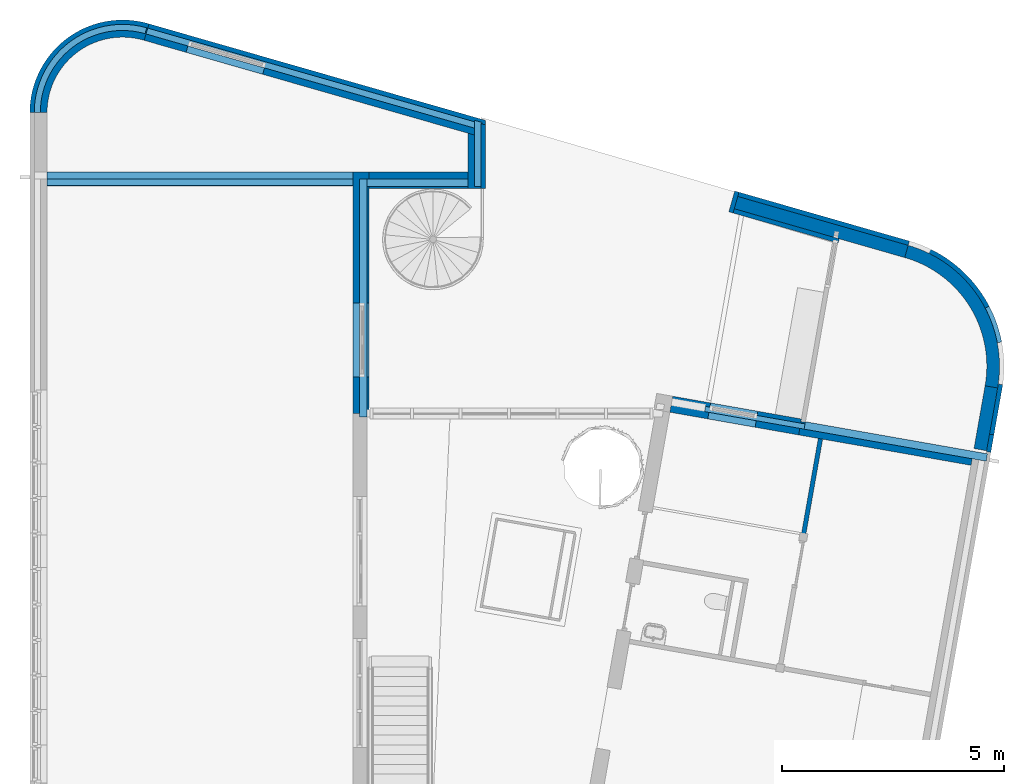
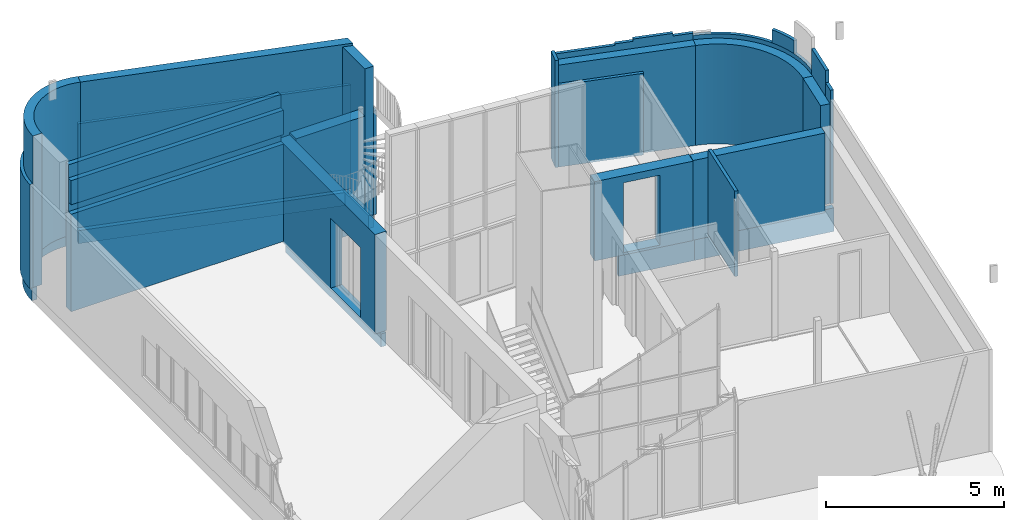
# One storey, part 12 of 21: 31 walls, 5 openings.
"""IFC2X3 building model written with IfcOpenShell, lengths in millimetres."""

from ifc_helpers import new_model, entity, si_unit, converted_unit, derived_unit, direction, frame, frame_2d, origin, place, context, subcontext, project, spatial, polyline, circle_curve, parameter, trimmed, segment, composite_curve, rectangle, outline, extrude, clip, bounded_halfspace, material, layer, layer_set, layer_usage, type_object, element, save


model = new_model("IFC2X3")

# Units and contexts
model_context = context("Model", 3, precision=0.01, world=origin(), true_north=direction((6.12303176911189e-17, 1.0)))
body_context = subcontext(model_context, "Body", "Model", "MODEL_VIEW")
ifc_project = project(units=[si_unit("LENGTHUNIT", "METRE", prefix="MILLI"), si_unit("AREAUNIT", "SQUARE_METRE"), si_unit("VOLUMEUNIT", "CUBIC_METRE"), converted_unit("PLANEANGLEUNIT", "DEGREE", entity("IfcRatioMeasure", 0.0174532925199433), si_unit("PLANEANGLEUNIT", "RADIAN"), dimensions=[0, 0, 0, 0, 0, 0, 0]), si_unit("MASSUNIT", "GRAM", prefix="KILO"), derived_unit("MASSDENSITYUNIT", [(si_unit("MASSUNIT", "GRAM", prefix="KILO"), 1), (si_unit("LENGTHUNIT", "METRE"), -3)]), si_unit("TIMEUNIT", "SECOND"), si_unit("FREQUENCYUNIT", "HERTZ"), si_unit("THERMODYNAMICTEMPERATUREUNIT", "DEGREE_CELSIUS"), derived_unit("THERMALTRANSMITTANCEUNIT", [(si_unit("MASSUNIT", "GRAM", prefix="KILO"), 1), (si_unit("THERMODYNAMICTEMPERATUREUNIT", "KELVIN"), -1), (si_unit("TIMEUNIT", "SECOND"), -3)]), derived_unit("VOLUMETRICFLOWRATEUNIT", [(si_unit("LENGTHUNIT", "METRE"), 3), (si_unit("TIMEUNIT", "SECOND"), -1)]), si_unit("ELECTRICCURRENTUNIT", "AMPERE"), si_unit("ELECTRICVOLTAGEUNIT", "VOLT"), si_unit("POWERUNIT", "WATT"), si_unit("FORCEUNIT", "NEWTON", prefix="KILO"), si_unit("ILLUMINANCEUNIT", "LUX"), si_unit("LUMINOUSFLUXUNIT", "LUMEN"), si_unit("LUMINOUSINTENSITYUNIT", "CANDELA"), derived_unit("USERDEFINED", [(si_unit("MASSUNIT", "GRAM", prefix="KILO"), -1), (si_unit("LENGTHUNIT", "METRE"), -2), (si_unit("TIMEUNIT", "SECOND"), 3), (si_unit("LUMINOUSFLUXUNIT", "LUMEN"), 1)]), derived_unit("LINEARVELOCITYUNIT", [(si_unit("LENGTHUNIT", "METRE"), 1), (si_unit("TIMEUNIT", "SECOND"), -1)]), si_unit("PRESSUREUNIT", "PASCAL"), derived_unit("USERDEFINED", [(si_unit("LENGTHUNIT", "METRE"), -2), (si_unit("MASSUNIT", "GRAM", prefix="KILO"), 1), (si_unit("TIMEUNIT", "SECOND"), -2)])], contexts=[model_context])

# Site, building, storey
site_placement = place(None, origin())
site = spatial("IfcSite", under=ifc_project, at=site_placement, Name="<Kadaster Gemeente>;<Kadaster nummer>;<Kadaster sectie>", CompositionType="ELEMENT")
building_placement = place(site_placement, origin())
building = spatial("IfcBuilding", under=site, at=building_placement, Name="JRCZ Middelburg", CompositionType="ELEMENT")
storey_placement = place(building_placement, origin())
storey = spatial("IfcBuildingStorey", under=building, at=storey_placement, Name="00 begane grond", CompositionType="ELEMENT", Elevation=0.0)

# Walls
ifc_material_1 = material(Name="RBM_a_metalstudwand")
ifc_layer_1 = layer(ifc_material_1, 100.0)
ifc_layer_set_1 = layer_set([ifc_layer_1], Name="Basic Wall:WA_22_metalstud_binnenwand_100mm")
ifc_layer_usage_1 = layer_usage(ifc_layer_set_1, "AXIS2", "NEGATIVE", 50.0)
wall_type_1 = type_object("IfcWallType", Name="Basic Wall:WA_22_metalstud_binnenwand_100mm", PredefinedType="STANDARD", material=ifc_layer_set_1)
wall_1_placement = place(storey_placement, frame((27624.7105197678, 18683.7274090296, 0.0), z_axis=(0.0, 0.0, 1.0), x_axis=(-0.173648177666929, -0.984807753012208, 0.0)))
element("IfcWallStandardCase", 1, at=wall_1_placement, inside=storey, type_object=wall_type_1, material=ifc_layer_usage_1, Name="Basic Wall:WA_22_metalstud_binnenwand_100mm", ObjectType="Basic Wall:WA_22_metalstud_binnenwand_100mm", context=body_context, shape_type="Clipping", body=[
    clip(extrude(rectangle(XDim=2175.00000000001, YDim=99.9999999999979, at=frame_2d((1237.50000000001, -8.98836560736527e-13), x_axis=(-1.0, 0.0))), origin(), (0.0, 0.0, 1.0), 2936.0), bounded_halfspace(frame((0.0, -50.0, 2936.0), z_axis=(0.0, 0.0, -1.0), x_axis=(1.0, 0.0, 0.0)), True, frame((0.0, -50.0, 2936.0)), polyline([(0.0, 0.0), (2325.0, 0.0), (2325.0, 100.0), (0.0, 100.0), (0.0, 0.0)]))),
])
ifc_material_2 = material(Name="RBM_i4_multiplex_beplating")
ifc_layer_2 = layer(ifc_material_2, 18.0)
ifc_material_3 = material(Name="isolatie_steenwol_hsb_270")
ifc_layer_3 = layer(ifc_material_3, 270.0)
ifc_layer_4 = layer(ifc_material_2, 18.0)
ifc_layer_set_2 = layer_set([ifc_layer_2, ifc_layer_3, ifc_layer_4], Name="Basic Wall:22_WA_hsb_binnenwand_306mm")
ifc_layer_usage_2 = layer_usage(ifc_layer_set_2, "AXIS2", "POSITIVE", -153.0)
wall_type_2 = type_object("IfcWallType", Name="Basic Wall:22_WA_hsb_binnenwand_306mm", PredefinedType="STANDARD", material=ifc_layer_set_2)
wall_2_placement = place(storey_placement, frame((17050.0, 24397.0, 0.0), z_axis=(0.0, 0.0, 1.0), x_axis=(-1.0, 0.0, 0.0)))
element("IfcWallStandardCase", 2, at=wall_2_placement, inside=storey, type_object=wall_type_2, material=ifc_layer_usage_2, Name="Basic Wall:22_WA_hsb_binnenwand_306mm", ObjectType="Basic Wall:22_WA_hsb_binnenwand_306mm", context=body_context, shape_type="SweptSolid", body=[
    extrude(rectangle(XDim=6900.0, YDim=306.0, at=frame_2d((3450.0, -4.54747350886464e-13), x_axis=(-1.0, 0.0))), origin(), (0.0, 0.0, 1.0), 3345.0),
])
ifc_layer_usage_3 = layer_usage(ifc_layer_set_2, "AXIS2", "NEGATIVE", 153.0)
wall_3_placement = place(storey_placement, frame((27132.8275877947, 18773.5059211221, -70.0), z_axis=(0.0, 0.0, 1.0), x_axis=(0.984807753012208, -0.173648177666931, 0.0)))
element("IfcWallStandardCase", 3, at=wall_3_placement, inside=storey, type_object=wall_type_2, material=ifc_layer_usage_3, Name="Basic Wall:22_WA_hsb_binnenwand_306mm", ObjectType="Basic Wall:22_WA_hsb_binnenwand_306mm", context=body_context, shape_type="SweptSolid", body=[
    extrude(rectangle(XDim=3950.00000000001, YDim=306.0, at=frame_2d((1975.0, -1.02318153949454e-12), x_axis=(-1.0, 0.0))), origin(), (0.0, 0.0, 1.0), 2735.0),
])

# Wall, opening
ifc_layer_5 = layer(ifc_material_3, 270.0)
ifc_layer_6 = layer(ifc_material_2, 18.0)
ifc_layer_set_3 = layer_set([ifc_layer_5, ifc_layer_6], Name="Basic Wall:RBM_21_WA_hsb_288mm")
ifc_layer_usage_4 = layer_usage(ifc_layer_set_3, "AXIS2", "NEGATIVE", 144.0)
wall_type_3 = type_object("IfcWallType", Name="Basic Wall:RBM_21_WA_hsb_288mm", PredefinedType="STANDARD", material=ifc_layer_set_3)
wall_4_placement = place(storey_placement, frame((12380.8470637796, 27663.2188626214, -70.0), z_axis=(0.0, 0.0, 1.0), x_axis=(0.961261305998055, -0.275638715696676, 0.0)))
wall_4 = element("IfcWallStandardCase", 4, at=wall_4_placement, inside=storey, type_object=wall_type_3, material=ifc_layer_usage_4, Name="Basic Wall:RBM_21_WA_hsb_288mm", ObjectType="Basic Wall:RBM_21_WA_hsb_288mm", context=body_context, shape_type="SweptSolid", body=[
    extrude(outline(polyline([(7902.61474660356, -144.0), (7820.03163457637, 144.0), (1.57831610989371, 144.0), (0.0, -144.0), (7603.00838753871, -144.0), (7902.61474660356, -144.0)])), origin(), (0.0, 0.0, 1.0), 5200.0),
])
opening_1_placement = place(wall_4_placement, origin())
element("IfcOpeningElement", 5, at=opening_1_placement, cuts=wall_4, Name="Basic Wall:RBM_21_WA_hsb_288mm", ObjectType="Opening", context=body_context, shape_type="SweptSolid", body=[
    extrude(rectangle(XDim=2400.0, YDim=1799.9999999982, at=frame_2d((0.0, 5.11590769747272e-13), x_axis=(1.0, 0.0))), frame((1882.35779775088, -296.400000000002, 1270.0), z_axis=(0.0, 1.0, 0.0), x_axis=(0.0, 0.0, 1.0)), (0.0, 0.0, 1.0), 592.799999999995),
])

# Walls
ifc_layer_usage_5 = layer_usage(ifc_layer_set_3, "AXIS2", "NEGATIVE", 144.0)
wall_5_placement = place(storey_placement, frame((19793.6328608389, 25429.1137671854, -70.0), z_axis=(0.0, 0.0, 1.0), x_axis=(0.0, -1.0, 0.0)))
element("IfcWallStandardCase", 6, at=wall_5_placement, inside=storey, type_object=wall_type_3, material=ifc_layer_usage_5, Name="Basic Wall:RBM_21_WA_hsb_288mm", ObjectType="Basic Wall:RBM_21_WA_hsb_288mm", context=body_context, shape_type="SweptSolid", body=[
    extrude(outline(polyline([(1245.11376718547, -144.0), (1245.11376718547, 144.0), (82.5831120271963, 144.0), (0.0, -144.0), (879.11376718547, -144.0), (1245.11376718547, -144.0)])), origin(), (0.0, 0.0, 1.0), 5120.0),
])
ifc_layer_usage_6 = layer_usage(ifc_layer_set_3, "AXIS2", "POSITIVE", -144.0)
wall_6_placement = place(storey_placement, frame((10005.99966665, 25897.124690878, -70.0)))
element("IfcWallStandardCase", 7, at=wall_6_placement, inside=storey, type_object=wall_type_3, material=ifc_layer_usage_6, Name="Basic Wall:RBM_21_WA_hsb_288mm", ObjectType="Basic Wall:RBM_21_WA_hsb_288mm", context=body_context, shape_type="SweptSolid", body=[
    extrude(outline(composite_curve([segment(trimmed(circle_curve(frame_2d((1847.07846521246, -3.97438723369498), x_axis=(1.0, 0.0)), 1991.08274108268), [parameter(73.395528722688)], [parameter(179.876715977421)], True, "PARAMETER"), True, "CONTINUOUS"), segment(polyline([(-143.999666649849, 0.309846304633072), (144.00033335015, -0.0120967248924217)]), True, "CONTINUOUS"), segment(trimmed(circle_curve(frame_2d((1847.07846521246, -3.97438723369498), x_axis=(1.0, 0.0)), 1703.08274108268), [parameter(73.3464205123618)], [parameter(179.866698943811)], True, "PARAMETER"), False, "CONTINUOUS"), segment(polyline([(2335.15542206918, 1627.67254367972), (2416.05654639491, 1904.08075478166)]), True, "CONTINUOUS")], self_intersect=False)), origin(), (0.0, 0.0, 1.0), 5200.0),
])
ifc_material_4 = material(Name="geisoleerde cementvezelplaat")
ifc_layer_7 = layer(ifc_material_4, 20.0)
ifc_material_5 = material(Name="RBM_n7_isolatie_resol")
ifc_layer_8 = layer(ifc_material_5, 150.0)
ifc_layer_set_4 = layer_set([ifc_layer_7, ifc_layer_8], Name="Basic Wall:RBM_21_WA_170mm_geïsoleerde_kantplank")
ifc_layer_usage_7 = layer_usage(ifc_layer_set_4, "AXIS2", "NEGATIVE", 85.0)
wall_type_4 = type_object("IfcWallType", Name="Basic Wall:RBM_21_WA_170mm_geïsoleerde_kantplank", PredefinedType="STANDARD", material=ifc_layer_set_4)
wall_7_placement = place(storey_placement, frame((12383.6373887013, 27757.3648549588, -520.0), z_axis=(0.0, 0.0, 1.0), x_axis=(0.961261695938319, -0.275637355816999, 0.0)))
element("IfcWallStandardCase", 8, at=wall_7_placement, inside=storey, type_object=wall_type_4, material=ifc_layer_usage_7, Name="Basic Wall:RBM_21_WA_170mm_geïsoleerde_kantplank", ObjectType="Basic Wall:RBM_21_WA_170mm_geïsoleerde_kantplank", context=body_context, shape_type="SweptSolid", body=[
    extrude(outline(polyline([(7732.98746719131, -85.0), (7684.24075161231, 85.0), (0.0, 85.0), (0.0, -85.0), (7732.98746719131, -85.0)])), origin(), (0.0, 0.0, 1.0), 450.0),
])
ifc_layer_usage_8 = layer_usage(ifc_layer_set_4, "AXIS2", "NEGATIVE", 85.0)
wall_8_placement = place(storey_placement, frame((19878.6328608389, 25721.0082968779, -520.0), z_axis=(0.0, 0.0, 1.0), x_axis=(0.0, -1.0, 0.0)))
element("IfcWallStandardCase", 9, at=wall_8_placement, inside=storey, type_object=wall_type_4, material=ifc_layer_usage_8, Name="Basic Wall:RBM_21_WA_170mm_geïsoleerde_kantplank", ObjectType="Basic Wall:RBM_21_WA_170mm_geïsoleerde_kantplank", context=body_context, shape_type="SweptSolid", body=[
    extrude(outline(polyline([(1494.00829687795, -85.0), (1494.00829687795, 85.0), (48.746715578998, 85.0), (0.0, -85.0), (176.850904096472, -85.0), (1324.00829687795, -85.0), (1494.00829687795, -85.0)])), origin(), (0.0, 0.0, 1.0), 450.0),
])
ifc_layer_usage_9 = layer_usage(ifc_layer_set_4, "AXIS2", "NEGATIVE", 85.0)
wall_9_placement = place(storey_placement, frame((27244.9769050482, 18836.9959527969, -890.0), z_axis=(0.0, 0.0, 1.0), x_axis=(0.984807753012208, -0.173648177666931, 0.0)))
element("IfcWallStandardCase", 10, at=wall_9_placement, inside=storey, type_object=wall_type_4, material=ifc_layer_usage_9, Name="Basic Wall:RBM_21_WA_170mm_geïsoleerde_kantplank", ObjectType="Basic Wall:RBM_21_WA_170mm_geïsoleerde_kantplank", context=body_context, shape_type="SweptSolid", body=[
    extrude(rectangle(XDim=4170.57941117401, YDim=170.000000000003, at=frame_2d((2085.289705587, 8.31335000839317e-13), x_axis=(-1.0, 0.0))), origin(), (0.0, 0.0, 1.0), 810.000000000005),
])
ifc_layer_usage_10 = layer_usage(ifc_layer_set_4, "AXIS2", "NEGATIVE", 85.0)
wall_10_placement = place(storey_placement, frame((17285.0, 24397.0, -520.0), z_axis=(0.0, 0.0, 1.0), x_axis=(0.0, -1.0, 0.0)))
element("IfcWallStandardCase", 11, at=wall_10_placement, inside=storey, type_object=wall_type_4, material=ifc_layer_usage_10, Name="Basic Wall:RBM_21_WA_170mm_geïsoleerde_kantplank", ObjectType="Basic Wall:RBM_21_WA_170mm_geïsoleerde_kantplank", context=body_context, shape_type="SweptSolid", body=[
    extrude(rectangle(XDim=5369.37661213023, YDim=170.0, at=frame_2d((2684.68830606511, -2.48689957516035e-13), x_axis=(-1.0, 0.0))), origin(), (0.0, 0.0, 1.0), 450.0),
])
ifc_layer_usage_11 = layer_usage(ifc_layer_set_4, "AXIS2", "POSITIVE", -85.0)
wall_11_placement = place(storey_placement, frame((17370.0, 24312.0, -520.0)))
element("IfcWallStandardCase", 12, at=wall_11_placement, inside=storey, type_object=wall_type_4, material=ifc_layer_usage_11, Name="Basic Wall:RBM_21_WA_170mm_geïsoleerde_kantplank", ObjectType="Basic Wall:RBM_21_WA_170mm_geïsoleerde_kantplank", context=body_context, shape_type="SweptSolid", body=[
    extrude(rectangle(XDim=2423.63286083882, YDim=169.999999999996, at=frame_2d((1211.81643041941, 2.8421709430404e-13), x_axis=(-1.0, 0.0))), origin(), (0.0, 0.0, 1.0), 450.0),
])
ifc_layer_usage_12 = layer_usage(ifc_layer_set_4, "AXIS2", "POSITIVE", -85.0)
wall_12_placement = place(storey_placement, frame((9915.0, 25897.1125941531, -520.0)))
element("IfcWallStandardCase", 13, at=wall_12_placement, inside=storey, type_object=wall_type_4, material=ifc_layer_usage_12, Name="Basic Wall:RBM_21_WA_170mm_geïsoleerde_kantplank", ObjectType="Basic Wall:RBM_21_WA_170mm_geïsoleerde_kantplank", context=body_context, shape_type="SweptSolid", body=[
    extrude(outline(composite_curve([segment(trimmed(circle_curve(frame_2d((1935.21863656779, 0.0), x_axis=(1.0, 0.0)), 2020.21863656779), [parameter(74.0)], [parameter(180.0)], True, "PARAMETER"), True, "CONTINUOUS"), segment(polyline([(-85.0, 0.0), (85.0, 0.0)]), True, "CONTINUOUS"), segment(trimmed(circle_curve(frame_2d((1935.21863656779, 0.0), x_axis=(1.0, 0.0)), 1850.21863656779), [parameter(74.0)], [parameter(180.0)], True, "PARAMETER"), False, "CONTINUOUS"), segment(polyline([(2445.20800923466, 1778.54430444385), (2492.06635972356, 1941.95879275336)]), True, "CONTINUOUS")], self_intersect=False)), origin(), (0.0, 0.0, 1.0), 450.0),
])

# Wall, opening
ifc_material_6 = material(Name="steenachtig_ntb_plaat_antraciet")
ifc_layer_9 = layer(ifc_material_6, 8.0)
ifc_material_7 = material(Name="ISR_Luchtspouw")
ifc_layer_10 = layer(ifc_material_7, 35.0)
ifc_layer_11 = layer(ifc_material_7, 35.0)
ifc_layer_12 = layer(ifc_material_3, 270.0)
ifc_layer_13 = layer(ifc_material_2, 18.0)
ifc_layer_set_5 = layer_set([ifc_layer_9, ifc_layer_10, ifc_layer_11, ifc_layer_12, ifc_layer_13], Name="Basic Wall:RBM_21_WA_hsb_ rockpanel_366mm")
ifc_layer_usage_13 = layer_usage(ifc_layer_set_5, "AXIS2", "NEGATIVE", 183.0)
wall_type_5 = type_object("IfcWallType", Name="Basic Wall:RBM_21_WA_hsb_ rockpanel_366mm", PredefinedType="STANDARD", material=ifc_layer_set_5)
wall_13_placement = place(storey_placement, frame((24232.8541617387, 19315.31227783, -80.0), z_axis=(0.0, 0.0, 1.0), x_axis=(0.984807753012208, -0.173648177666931, 0.0)))
wall_13 = element("IfcWallStandardCase", 14, at=wall_13_placement, inside=storey, type_object=wall_type_5, material=ifc_layer_usage_13, Name="Basic Wall:RBM_21_WA_hsb_ rockpanel_366mm", ObjectType="Basic Wall:RBM_21_WA_hsb_ rockpanel_366mm", context=body_context, shape_type="SweptSolid", body=[
    extrude(rectangle(XDim=2949.99999999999, YDim=366.000000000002, at=frame_2d((1474.99999999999, -1.27897692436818e-13), x_axis=(-1.0, 0.0))), origin(), (0.0, 0.0, 1.0), 2725.0),
])
opening_2_placement = place(wall_13_placement, origin())
element("IfcOpeningElement", 15, at=opening_2_placement, cuts=wall_13, Name="Basic Wall:RBM_21_WA_hsb_ rockpanel_366mm", ObjectType="Opening", context=body_context, shape_type="SweptSolid", body=[
    extrude(rectangle(XDim=2400.0, YDim=1084.0, at=frame_2d((2.1600499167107e-12, 0.0), x_axis=(0.0, 1.0))), frame((1410.31493614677, -335.399999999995, 1280.0), z_axis=(0.0, 1.0, 0.0), x_axis=(-1.0, 0.0, 0.0)), (0.0, 0.0, 1.0), 670.799999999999),
])

ifc_layer_usage_14 = layer_usage(ifc_layer_set_5, "AXIS2", "NEGATIVE", 183.0)
wall_14_placement = place(storey_placement, frame((17233.0, 24550.0, -70.0), z_axis=(0.0, 0.0, 1.0), x_axis=(0.0, -1.0, 0.0)))
wall_14 = element("IfcWallStandardCase", 16, at=wall_14_placement, inside=storey, type_object=wall_type_5, material=ifc_layer_usage_14, Name="Basic Wall:RBM_21_WA_hsb_ rockpanel_366mm", ObjectType="Basic Wall:RBM_21_WA_hsb_ rockpanel_366mm", context=body_context, shape_type="SweptSolid", body=[
    extrude(rectangle(XDim=5446.37661213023, YDim=365.999999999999, at=frame_2d((2723.18830606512, -1.84741111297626e-13), x_axis=(-1.0, 0.0))), origin(), (0.0, 0.0, 1.0), 3415.0),
])
opening_3_placement = place(wall_14_placement, origin())
element("IfcOpeningElement", 17, at=opening_3_placement, cuts=wall_14, Name="Basic Wall:RBM_21_WA_hsb_ rockpanel_366mm", ObjectType="Opening", context=body_context, shape_type="SweptSolid", body=[
    extrude(rectangle(XDim=2400.0, YDim=1667.0, at=frame_2d((0.0, 2.1600499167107e-12), x_axis=(1.0, 0.0))), frame((3786.48930167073, -335.400000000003, 1270.0), z_axis=(0.0, 1.0, 0.0), x_axis=(0.0, 0.0, 1.0)), (0.0, 0.0, 1.0), 670.799999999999),
])

# Walls
ifc_layer_usage_15 = layer_usage(ifc_layer_set_5, "AXIS2", "POSITIVE", -183.0)
wall_15_placement = place(storey_placement, frame((17416.0, 24367.0, -70.0)))
element("IfcWallStandardCase", 18, at=wall_15_placement, inside=storey, type_object=wall_type_5, material=ifc_layer_usage_15, Name="Basic Wall:RBM_21_WA_hsb_ rockpanel_366mm", ObjectType="Basic Wall:RBM_21_WA_hsb_ rockpanel_366mm", context=body_context, shape_type="SweptSolid", body=[
    extrude(rectangle(XDim=2233.6328608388, YDim=366.000000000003, at=frame_2d((1116.8164304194, -8.5265128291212e-14), x_axis=(-1.0, 0.0))), origin(), (0.0, 0.0, 1.0), 3500.0),
])
ifc_layer_14 = layer(ifc_material_7, 270.0)
ifc_layer_15 = layer(ifc_material_2, 18.0)
ifc_layer_set_6 = layer_set([ifc_layer_14, ifc_layer_15], Name="Basic Wall:RBM_21_WA_hsb_270mm - niet geïsoleerd")
ifc_layer_usage_16 = layer_usage(ifc_layer_set_6, "AXIS2", "POSITIVE", -144.0)
wall_type_6 = type_object("IfcWallType", Name="Basic Wall:RBM_21_WA_hsb_270mm - niet geïsoleerd", PredefinedType="STANDARD", material=ifc_layer_set_6)
wall_16_placement = place(storey_placement, frame((29538.0953940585, 22762.1711773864, -80.0), z_axis=(0.0, 0.0, 1.0), x_axis=(-0.961261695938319, 0.275637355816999, 0.0)))
element("IfcWallStandardCase", 19, at=wall_16_placement, inside=storey, type_object=wall_type_6, material=ifc_layer_usage_16, Name="Basic Wall:RBM_21_WA_hsb_270mm - niet geïsoleerd", ObjectType="Basic Wall:RBM_21_WA_hsb_270mm - niet geïsoleerd", context=body_context, shape_type="SweptSolid", body=[
    extrude(outline(polyline([(3998.45557788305, -144.0), (3998.45557788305, 144.0), (0.0, 144.0), (0.485277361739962, -144.0), (3998.45557788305, -144.0)])), origin(), (0.0, 0.0, 1.0), 3429.99999999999),
])
ifc_layer_usage_17 = layer_usage(ifc_layer_set_6, "AXIS2", "POSITIVE", -144.0)
wall_17_placement = place(storey_placement, frame((31204.4331900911, 18291.0436780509, -80.0), z_axis=(0.0, 0.0, 1.0), x_axis=(0.173659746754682, 0.984805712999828, 0.0)))
element("IfcWallStandardCase", 20, at=wall_17_placement, inside=storey, type_object=wall_type_6, material=ifc_layer_usage_17, Name="Basic Wall:RBM_21_WA_hsb_270mm - niet geïsoleerd", ObjectType="Basic Wall:RBM_21_WA_hsb_270mm - niet geïsoleerd", context=body_context, shape_type="SweptSolid", body=[
    extrude(rectangle(XDim=1437.80359953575, YDim=287.999999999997, at=frame_2d((718.901799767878, -2.58637555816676e-12), x_axis=(-1.0, 0.0))), origin(), (0.0, 0.0, 1.0), 3429.99999999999),
])
ifc_layer_usage_18 = layer_usage(ifc_layer_set_6, "AXIS2", "POSITIVE", -144.0)
wall_18_placement = place(storey_placement, frame((29537.6158396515, 22762.3077892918, -80.0)))
element("IfcWallStandardCase", 21, at=wall_18_placement, inside=storey, type_object=wall_type_6, material=ifc_layer_usage_18, Name="Basic Wall:RBM_21_WA_hsb_270mm - niet geïsoleerd", ObjectType="Basic Wall:RBM_21_WA_hsb_270mm - niet geïsoleerd", context=body_context, shape_type="SweptSolid", body=[
    extrude(outline(composite_curve([segment(trimmed(circle_curve(frame_2d((-732.462092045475, -2588.19028720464), x_axis=(1.0, 0.0)), 2833.8382254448), [parameter(349.999326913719)], [parameter(74.1880483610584)], True, "PARAMETER"), True, "CONTINUOUS"), segment(polyline([(39.7048551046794, 138.418832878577), (-39.2122248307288, -138.558296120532)]), True, "CONTINUOUS"), segment(trimmed(circle_curve(frame_2d((-732.462092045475, -2588.19028720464), x_axis=(1.0, 0.0)), 2545.8382254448), [parameter(349.99932691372)], [parameter(74.1984000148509)], True, "PARAMETER"), False, "CONTINUOUS"), segment(polyline([(1774.69393674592, -3030.29990871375), (2058.31798208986, -3080.31391577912)]), True, "CONTINUOUS")], self_intersect=False)), origin(), (0.0, 0.0, 1.0), 3429.99999999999),
])
ifc_material_8 = material(Name="hout_accoya_schubben")
ifc_layer_16 = layer(ifc_material_8, 30.0)
ifc_material_9 = material(Name="hout_vuren_regel")
ifc_layer_17 = layer(ifc_material_9, 35.0)
ifc_layer_18 = layer(ifc_material_9, 35.0)
ifc_layer_set_7 = layer_set([ifc_layer_16, ifc_layer_17, ifc_layer_18], Name="Basic Wall:RBM_21_WA_gevelbekleding op regelwerk_100mm")
ifc_layer_usage_19 = layer_usage(ifc_layer_set_7, "AXIS2", "NEGATIVE", 50.0)
wall_type_7 = type_object("IfcWallType", Name="Basic Wall:RBM_21_WA_gevelbekleding op regelwerk_100mm", PredefinedType="STANDARD", material=ifc_layer_set_7)
wall_19_placement = place(storey_placement, frame((31661.8142293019, 19765.0576906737, -80.0), z_axis=(0.0, 0.0, 1.0), x_axis=(-0.17364817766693, -0.984807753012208, 0.0)))
element("IfcWallStandardCase", 22, at=wall_19_placement, inside=storey, type_object=wall_type_7, material=ifc_layer_usage_19, Name="Basic Wall:RBM_21_WA_gevelbekleding op regelwerk_100mm", ObjectType="Basic Wall:RBM_21_WA_gevelbekleding op regelwerk_100mm", context=body_context, shape_type="SweptSolid", body=[
    extrude(outline(polyline([(1149.93814714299, -50.0), (1149.93814714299, 50.0), (0.0, 50.0), (1.80715518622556, -50.0), (1149.93814714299, -50.0)])), origin(), (0.0, 0.0, 1.0), 4319.31859048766),
])
ifc_layer_usage_20 = layer_usage(ifc_layer_set_7, "AXIS2", "NEGATIVE", 50.0)
wall_20_placement = place(storey_placement, frame((25579.2146045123, 23643.5289142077, -80.0), z_axis=(0.0, 0.0, 1.0), x_axis=(0.275637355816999, 0.961261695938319, 0.0)))
element("IfcWallStandardCase", 23, at=wall_20_placement, inside=storey, type_object=wall_type_7, material=ifc_layer_usage_20, Name="Basic Wall:RBM_21_WA_gevelbekleding op regelwerk_100mm", ObjectType="Basic Wall:RBM_21_WA_gevelbekleding op regelwerk_100mm", context=body_context, shape_type="SweptSolid", body=[
    extrude(rectangle(XDim=488.000000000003, YDim=100.000000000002, at=frame_2d((244.000000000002, -3.83693077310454e-13), x_axis=(-1.0, 0.0))), origin(), (0.0, 0.0, 1.0), 3676.99218749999),
])
ifc_layer_usage_21 = layer_usage(ifc_layer_set_7, "AXIS2", "POSITIVE", -50.0)
wall_21_placement = place(storey_placement, frame((29591.0858035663, 22948.7944272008, -80.0)))
element("IfcWallStandardCase", 24, at=wall_21_placement, inside=storey, type_object=wall_type_7, material=ifc_layer_usage_21, Name="Basic Wall:RBM_21_WA_gevelbekleding op regelwerk_100mm", ObjectType="Basic Wall:RBM_21_WA_gevelbekleding op regelwerk_100mm", context=body_context, shape_type="SweptSolid", body=[
    extrude(outline(composite_curve([segment(trimmed(circle_curve(frame_2d((-799.011158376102, -2784.9314124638), x_axis=(1.0, 0.0)), 2947.28524714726), [parameter(352.052904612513)], [parameter(73.9915421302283)], True, "PARAMETER"), True, "CONTINUOUS"), segment(polyline([(13.78896260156, 48.0610498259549), (-13.788962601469, -48.0610498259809)]), True, "CONTINUOUS"), segment(trimmed(circle_curve(frame_2d((-799.011158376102, -2784.9314124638), x_axis=(1.0, 0.0)), 2847.28524714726), [parameter(352.088647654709)], [parameter(73.9915421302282)], True, "PARAMETER"), False, "CONTINUOUS"), segment(polyline([(2021.17422888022, -3176.83402808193), (2119.96881338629, -3192.41914541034)]), True, "CONTINUOUS")], self_intersect=False)), origin(), (0.0, 0.0, 1.0), 3580.0),
])

# Wall, openings
ifc_layer_usage_22 = layer_usage(ifc_layer_set_7, "AXIS2", "NEGATIVE", 50.0)
wall_22_placement = place(storey_placement, frame((25748.0068511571, 24050.7796692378, -80.0), z_axis=(0.0, 0.0, 1.0), x_axis=(0.961261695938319, -0.275637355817, 0.0)))
wall_22 = element("IfcWallStandardCase", 25, at=wall_22_placement, inside=storey, type_object=wall_type_7, material=ifc_layer_usage_22, Name="Basic Wall:RBM_21_WA_gevelbekleding op regelwerk_100mm", ObjectType="Basic Wall:RBM_21_WA_gevelbekleding op regelwerk_100mm", context=body_context, shape_type="SweptSolid", body=[
    extrude(rectangle(XDim=3997.95288968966, YDim=100.000000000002, at=frame_2d((1998.97644484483, 1.50635059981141e-12), x_axis=(-1.0, 0.0))), origin(), (0.0, 0.0, 1.0), 3751.9921875),
])
opening_4_placement = place(wall_22_placement, origin())
element("IfcOpeningElement", 26, at=opening_4_placement, cuts=wall_22, Name="Basic Wall:RBM_21_WA_gevelbekleding op regelwerk_100mm", ObjectType="Opening", context=body_context, shape_type="SweptSolid", body=[
    extrude(rectangle(XDim=92.0021675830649, YDim=586.404658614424, at=frame_2d((-2.73558953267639e-13, 2.1032064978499e-12), x_axis=(1.0, 0.0))), frame((3704.75056038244, 50.0, 3705.99110370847), z_axis=(0.0, -1.0, 0.0), x_axis=(0.0, 0.0, 1.0)), (0.0, 0.0, 1.0), 100.0),
])
opening_5_placement = place(wall_22_placement, origin())
element("IfcOpeningElement", 27, at=opening_5_placement, cuts=wall_22, Name="Basic Wall:RBM_21_WA_gevelbekleding op regelwerk_100mm", ObjectType="Opening", context=body_context, shape_type="SweptSolid", body=[
    extrude(outline(polyline([(-942.554142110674, -68.3333333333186), (1365.10828422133, -68.3333333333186), (1365.10828422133, 61.6666666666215), (-422.554142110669, 61.6666666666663), (-422.554142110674, 6.66666666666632), (-942.554142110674, 6.66666666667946), (-942.554142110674, -68.3333333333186)])), frame((1315.10828422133, 50.0, 3683.65885416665), z_axis=(0.0, -1.0, 0.0), x_axis=(-1.0, 0.0, 0.0)), (0.0, 0.0, 1.0), 100.0),
])

# Walls
ifc_layer_usage_23 = layer_usage(ifc_layer_set_7, "AXIS2", "NEGATIVE", 50.0)
wall_23_placement = place(storey_placement, frame((28010.5503180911, 22998.3695889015, -80.0), z_axis=(0.0, 0.0, 1.0), x_axis=(-0.96126169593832, 0.275637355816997, 0.0)))
element("IfcWallStandardCase", 28, at=wall_23_placement, inside=storey, type_object=wall_type_7, material=ifc_layer_usage_23, Name="Basic Wall:RBM_21_WA_gevelbekleding op regelwerk_100mm", ObjectType="Basic Wall:RBM_21_WA_gevelbekleding op regelwerk_100mm", context=body_context, shape_type="SweptSolid", body=[
    extrude(rectangle(XDim=2464.97990193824, YDim=100.000000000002, at=frame_2d((1232.48995096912, -1.37134748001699e-12), x_axis=(-1.0, 0.0))), origin(), (0.0, 0.0, 1.0), 2809.0),
])
ifc_layer_usage_24 = layer_usage(ifc_layer_set_7, "AXIS2", "POSITIVE", -50.0)
wall_24_placement = place(storey_placement, frame((9811.99988978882, 25897.4358233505, -70.0)))
element("IfcWallStandardCase", 29, at=wall_24_placement, inside=storey, type_object=wall_type_7, material=ifc_layer_usage_24, Name="Basic Wall:RBM_21_WA_gevelbekleding op regelwerk_100mm", ObjectType="Basic Wall:RBM_21_WA_gevelbekleding op regelwerk_100mm", context=body_context, shape_type="SweptSolid", body=[
    extrude(outline(composite_curve([segment(trimmed(circle_curve(frame_2d((2041.07824207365, -4.28551970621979), x_axis=(1.0, 0.0)), 2091.08274108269), [parameter(73.4101574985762)], [parameter(179.879699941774)], True, "PARAMETER"), True, "CONTINUOUS"), segment(polyline([(-49.9998897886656, 0.10498152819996), (50.0001102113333, -0.00128616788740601)]), True, "CONTINUOUS"), segment(trimmed(circle_curve(frame_2d((2041.07824207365, -4.28551970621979), x_axis=(1.0, 0.0)), 1991.08274108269), [parameter(73.3955287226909)], [parameter(179.876715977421)], True, "PARAMETER"), False, "CONTINUOUS"), segment(polyline([(2610.05632325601, 1903.76962230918), (2638.12098647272, 1999.75215244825)]), True, "CONTINUOUS")], self_intersect=False)), origin(), (0.0, 0.0, 1.0), 3570.0),
])
ifc_layer_usage_25 = layer_usage(ifc_layer_set_7, "AXIS2", "NEGATIVE", 50.0)
wall_25_placement = place(storey_placement, frame((12435.8381488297, 27849.2685109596, -70.0), z_axis=(0.0, 0.0, 1.0), x_axis=(0.961261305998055, -0.275638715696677, 0.0)))
element("IfcWallStandardCase", 30, at=wall_25_placement, inside=storey, type_object=wall_type_7, material=ifc_layer_usage_25, Name="Basic Wall:RBM_21_WA_gevelbekleding op regelwerk_100mm", ObjectType="Basic Wall:RBM_21_WA_gevelbekleding op regelwerk_100mm", context=body_context, shape_type="SweptSolid", body=[
    extrude(outline(polyline([(7922.48330425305, -50.0), (7893.80861257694, 50.0), (0.520973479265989, 50.0), (0.0, -50.0), (7818.45331846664, -50.0), (7922.48330425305, -50.0)])), origin(), (0.0, 0.0, 1.0), 3570.0),
])
ifc_layer_usage_26 = layer_usage(ifc_layer_set_7, "AXIS2", "NEGATIVE", 50.0)
wall_26_placement = place(storey_placement, frame((19987.632860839, 25646.1370142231, -70.0), z_axis=(0.0, 0.0, 1.0), x_axis=(0.0, -1.0, 0.0)))
element("IfcWallStandardCase", 31, at=wall_26_placement, inside=storey, type_object=wall_type_7, material=ifc_layer_usage_26, Name="Basic Wall:RBM_21_WA_gevelbekleding op regelwerk_100mm", ObjectType="Basic Wall:RBM_21_WA_gevelbekleding op regelwerk_100mm", context=body_context, shape_type="SweptSolid", body=[
    extrude(outline(polyline([(1462.13701422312, -50.0), (1462.13701422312, 50.0), (28.6746916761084, 50.0), (0.0, -50.0), (1462.13701422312, -50.0)])), origin(), (0.0, 0.0, 1.0), 3570.0),
])
ifc_layer_usage_27 = layer_usage(ifc_layer_set_7, "AXIS2", "POSITIVE", -50.0)
wall_27_placement = place(storey_placement, frame((31359.7201874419, 21506.0471201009, 3500.0)))
element("IfcWallStandardCase", 32, at=wall_27_placement, inside=storey, type_object=wall_type_7, material=ifc_layer_usage_27, Name="Basic Wall:RBM_21_WA_gevelbekleding op regelwerk_100mm", ObjectType="Basic Wall:RBM_21_WA_gevelbekleding op regelwerk_100mm", context=body_context, shape_type="SweptSolid", body=[
    extrude(outline(composite_curve([segment(trimmed(circle_curve(frame_2d((-2567.6455422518, -1342.18410536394), x_axis=(1.0, 0.0)), 2947.28524714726), [parameter(10.8813443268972)], [parameter(27.5973967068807)], True, "PARAMETER"), True, "CONTINUOUS"), segment(polyline([(44.3112314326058, 23.1627884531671), (-44.3112314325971, -23.1627884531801)]), True, "CONTINUOUS"), segment(trimmed(circle_curve(frame_2d((-2567.6455422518, -1342.18410536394), x_axis=(1.0, 0.0)), 2847.28524714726), [parameter(10.8813443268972)], [parameter(27.5973967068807)], True, "PARAMETER"), False, "CONTINUOUS"), segment(polyline([(228.446172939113, -804.685827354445), (326.648196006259, -785.808256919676)]), True, "CONTINUOUS")], self_intersect=False)), origin(), (0.0, 0.0, 1.0), 447.997832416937),
])
ifc_layer_usage_28 = layer_usage(ifc_layer_set_7, "AXIS2", "NEGATIVE", 50.0)
wall_28_placement = place(storey_placement, frame((31462.1295656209, 18632.5896878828, -80.0), z_axis=(0.0, 0.0, 1.0), x_axis=(-0.17364817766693, -0.984807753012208, 0.0)))
element("IfcWallStandardCase", 33, at=wall_28_placement, inside=storey, type_object=wall_type_7, material=ifc_layer_usage_28, Name="Basic Wall:RBM_21_WA_gevelbekleding op regelwerk_100mm", ObjectType="Basic Wall:RBM_21_WA_gevelbekleding op regelwerk_100mm", context=body_context, shape_type="SweptSolid", body=[
    extrude(rectangle(XDim=400.00000000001, YDim=99.9999999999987, at=frame_2d((200.000000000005, 1.31450406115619e-13), x_axis=(-1.0, 0.0))), origin(), (0.0, 0.0, 1.0), 3898.06170970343),
])
ifc_layer_19 = layer(ifc_material_3, 132.0)
ifc_layer_20 = layer(ifc_material_2, 18.0)
ifc_layer_set_8 = layer_set([ifc_layer_19, ifc_layer_20], Name="Basic Wall:22_hsb_270 passtrook")
ifc_layer_usage_29 = layer_usage(ifc_layer_set_8, "AXIS2", "POSITIVE", -75.0)
wall_type_8 = type_object("IfcWallType", Name="Basic Wall:22_hsb_270 passtrook", PredefinedType="STANDARD", material=ifc_layer_set_8)
wall_29_placement = place(storey_placement, frame((17050.0, 24325.0, 3665.0), z_axis=(0.0, 0.0, 1.0), x_axis=(-1.0, 0.0, 0.0)))
element("IfcWallStandardCase", 34, at=wall_29_placement, inside=storey, type_object=wall_type_8, material=ifc_layer_usage_29, Name="Basic Wall:22_hsb_270 passtrook", ObjectType="Basic Wall:22_hsb_270 passtrook", context=body_context, shape_type="SweptSolid", body=[
    extrude(rectangle(XDim=6900.00000000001, YDim=150.000000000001, at=frame_2d((3450.0, -4.47641923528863e-13), x_axis=(-1.0, 0.0))), origin(), (0.0, 0.0, 1.0), 835.000000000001),
])
ifc_layer_usage_30 = layer_usage(ifc_layer_set_8, "AXIS2", "NEGATIVE", 75.0)
wall_30_placement = place(storey_placement, frame((17050.0, 24475.0, 3345.0), z_axis=(0.0, 0.0, 1.0), x_axis=(-1.0, 0.0, 0.0)))
element("IfcWallStandardCase", 35, at=wall_30_placement, inside=storey, type_object=wall_type_8, material=ifc_layer_usage_30, Name="Basic Wall:22_hsb_270 passtrook", ObjectType="Basic Wall:22_hsb_270 passtrook", context=body_context, shape_type="SweptSolid", body=[
    extrude(rectangle(XDim=6900.0, YDim=150.000000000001, at=frame_2d((3450.0, -6.67910171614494e-13), x_axis=(-1.0, 0.0))), origin(), (0.0, 0.0, 1.0), 1605.0),
])
ifc_material_10 = material(Name="RBM_n7_isolatie_PIR")
ifc_layer_21 = layer(ifc_material_10, 120.0)
ifc_layer_set_9 = layer_set([ifc_layer_21], Name="Basic Wall:21_RBM_WA_isolatie_PIR_120mm")
ifc_layer_usage_31 = layer_usage(ifc_layer_set_9, "AXIS2", "NEGATIVE", 60.0)
wall_type_9 = type_object("IfcWallType", Name="Basic Wall:21_RBM_WA_isolatie_PIR_120mm", PredefinedType="STANDARD", material=ifc_layer_set_9)
wall_31_placement = place(storey_placement, frame((24994.1851684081, 19208.4855986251, -890.0), z_axis=(0.0, 0.0, 1.0), x_axis=(0.984807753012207, -0.173648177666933, 0.0)))
element("IfcWallStandardCase", 36, at=wall_31_placement, inside=storey, type_object=wall_type_9, material=ifc_layer_usage_31, Name="Basic Wall:21_RBM_WA_isolatie_PIR_120mm", ObjectType="Basic Wall:21_RBM_WA_isolatie_PIR_120mm", context=body_context, shape_type="SweptSolid", body=[
    extrude(rectangle(XDim=2281.1056526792, YDim=119.999999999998, at=frame_2d((1140.5528263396, 7.70938868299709e-13), x_axis=(-1.0, 0.0))), origin(), (0.0, 0.0, 1.0), 810.000000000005),
])

save(model, "model.ifc")
